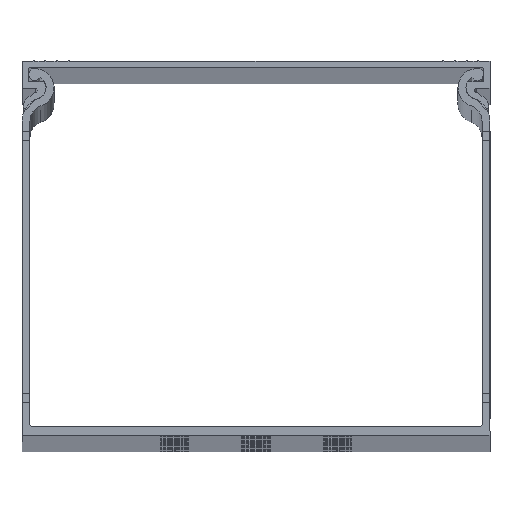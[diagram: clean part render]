
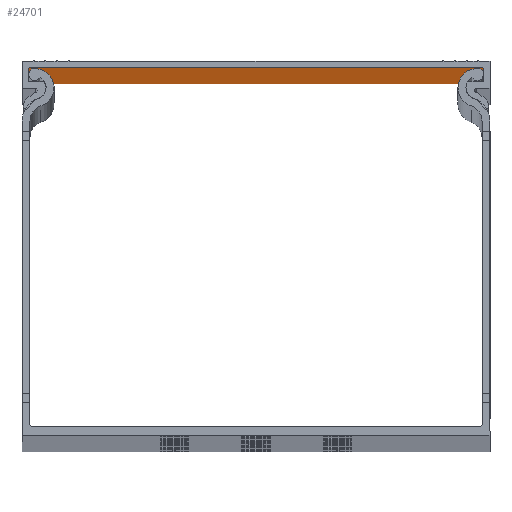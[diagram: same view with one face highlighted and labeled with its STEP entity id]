
A CAD part, top view. The second image highlights one B-rep face of the part: STEP entity #24701.
In plain terms, the highlighted planar face has unit normal (0, -1, 0).
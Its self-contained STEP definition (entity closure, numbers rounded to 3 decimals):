
#683 = DIRECTION ( 'NONE',  ( 0., 0., 1. ) ) ;
#2114 = EDGE_LOOP ( 'NONE', ( #22094, #3034, #18407, #40605 ) ) ;
#3034 = ORIENTED_EDGE ( 'NONE', *, *, #36243, .F. ) ;
#14943 = CARTESIAN_POINT ( 'NONE',  ( 2568.407, 1295.656, 0. ) ) ;
#15422 = CARTESIAN_POINT ( 'NONE',  ( 2520.007, 1295.656, 2000. ) ) ;
#15750 = VECTOR ( 'NONE', #25245, 1000. ) ;
#16016 = DIRECTION ( 'NONE',  ( 0., 1., 0. ) ) ;
#18407 = ORIENTED_EDGE ( 'NONE', *, *, #33183, .F. ) ;
#19217 = VERTEX_POINT ( 'NONE', #49239 ) ;
#21198 = VECTOR ( 'NONE', #41859, 1000. ) ;
#22094 = ORIENTED_EDGE ( 'NONE', *, *, #56868, .T. ) ;
#22979 = CARTESIAN_POINT ( 'NONE',  ( 2520.007, 1295.656, 2000. ) ) ;
#24514 = DIRECTION ( 'NONE',  ( 0., 0., -1. ) ) ;
#24701 = ADVANCED_FACE ( 'NONE', ( #26929 ), #30526, .F. ) ;
#25245 = DIRECTION ( 'NONE',  ( 1., 0., 0. ) ) ;
#25420 = CARTESIAN_POINT ( 'NONE',  ( 2616.807, 1295.656, 2000. ) ) ;
#26831 = VECTOR ( 'NONE', #24514, 1000. ) ;
#26929 = FACE_OUTER_BOUND ( 'NONE', #2114, .T. ) ;
#30280 = CARTESIAN_POINT ( 'NONE',  ( 2568.407, 1295.656, 2000. ) ) ;
#30526 = PLANE ( 'NONE',  #44895 ) ;
#32685 = LINE ( 'NONE', #15422, #21198 ) ;
#33183 = EDGE_CURVE ( 'NONE', #53878, #59271, #42080, .T. ) ;
#36124 = VERTEX_POINT ( 'NONE', #60140 ) ;
#36243 = EDGE_CURVE ( 'NONE', #59271, #19217, #36641, .T. ) ;
#36641 = LINE ( 'NONE', #25420, #26831 ) ;
#40605 = ORIENTED_EDGE ( 'NONE', *, *, #66468, .T. ) ;
#40703 = DIRECTION ( 'NONE',  ( 1., 0., 0. ) ) ;
#41859 = DIRECTION ( 'NONE',  ( 0., 0., -1. ) ) ;
#42080 = LINE ( 'NONE', #30280, #15750 ) ;
#44895 = AXIS2_PLACEMENT_3D ( 'NONE', #58079, #16016, #683 ) ;
#48515 = LINE ( 'NONE', #14943, #51748 ) ;
#49239 = CARTESIAN_POINT ( 'NONE',  ( 2616.807, 1295.656, 0. ) ) ;
#51748 = VECTOR ( 'NONE', #40703, 1000. ) ;
#53878 = VERTEX_POINT ( 'NONE', #22979 ) ;
#56868 = EDGE_CURVE ( 'NONE', #36124, #19217, #48515, .T. ) ;
#58079 = CARTESIAN_POINT ( 'NONE',  ( 2568.407, 1295.656, 2000. ) ) ;
#59271 = VERTEX_POINT ( 'NONE', #65192 ) ;
#60140 = CARTESIAN_POINT ( 'NONE',  ( 2520.007, 1295.656, 0. ) ) ;
#65192 = CARTESIAN_POINT ( 'NONE',  ( 2616.807, 1295.656, 2000. ) ) ;
#66468 = EDGE_CURVE ( 'NONE', #53878, #36124, #32685, .T. ) ;
